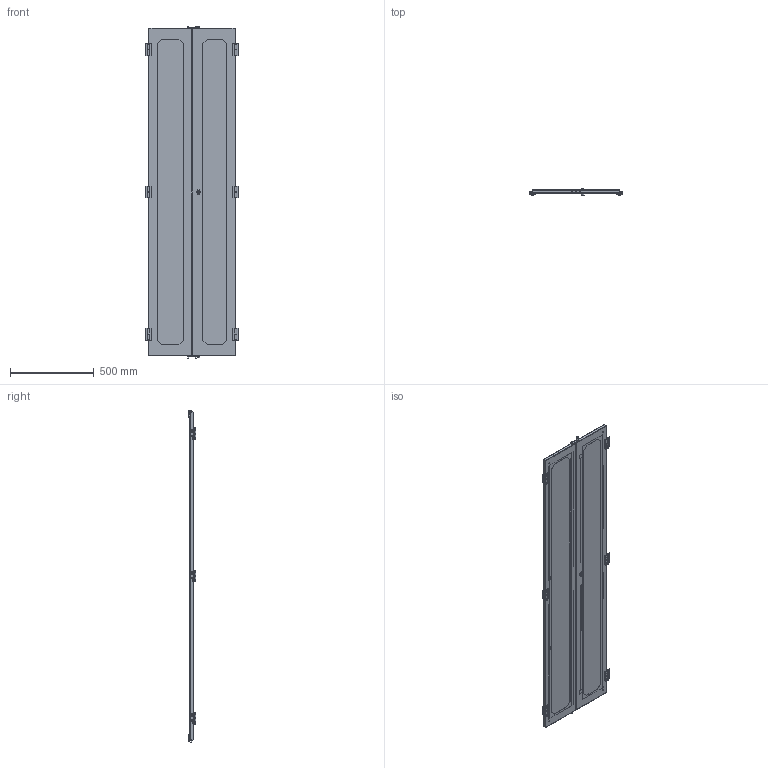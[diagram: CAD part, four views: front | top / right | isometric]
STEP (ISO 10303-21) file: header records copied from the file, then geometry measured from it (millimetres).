
FILE_DESCRIPTION(/* description */ ('Unknown'),/* implementation_level */ '2;1');
FILE_NAME(/* name */ 'C4BD2477V',/* time_stamp */ '2025-02-13T14:40:00-05:00',/* author */ ('Unknown'),/* organization */ ('Unknown'),/* preprocessor_version */ 'ST-DEVELOPER v18.104',/* originating_system */ 'Solid Edge',/* authorisation */ 'Unknown');
FILE_SCHEMA (('AUTOMOTIVE_DESIGN {1 0 10303 214 3 1 1}'));
Products named in the file (35): C4BD2477V; COM56744-3; COM57778-33; std26020; COM55940-9; GRM109956; HNG14615; HNG14615-2; HNG14615-4; HNG14615-3; HNG14615-1; HNG14616; HNG14616-1; HNG14616-5; HNG14616-2; COM56745-3; COM55857; COM57778-30; COM55940-8; COM55846-3; RVT17753; COM55856-3; WAM25493; COM55858; LOK10018-B; MLD87968; 6_32 STEEL NYLON-INSERT LOCKNUT; 6_32 x 7_16 PAN HEAD PHILLIPS MACHINE SCREW; COM57435; GSK10053-1.50; STD21899
Assembly tree (61 placements, depth 4):
  C4BD2477V
    COM56744-3
      COM57778-33  x4
      std26020  x2
      COM55940-9
      COM56744-3
    GRM109956  x2
    HNG14615  x3
      HNG14615-2
      HNG14615-4
      HNG14615-3
      HNG14615-1
    HNG14616  x3
      HNG14616-1
      HNG14616-5
        HNG14616-2
        HNG14615-3
      HNG14615-4
      HNG14615-1
    COM56745-3
      COM55857  x2
      COM57778-30  x2
      std26020  x2
      COM55940-8
      COM56745-3
      COM57778-33  x2
    COM55846-3
      RVT17753  x2
      COM55856-3  x2
      WAM25493  x2
      COM55858
    LOK10018-B
    MLD87968  x2
      6_32 STEEL NYLON-INSERT LOCKNUT
      6_32 x 7_16 PAN HEAD PHILLIPS MACHINE SCREW
      MLD87968
    COM57435  x2
      GSK10053-1.50
      STD21899
      COM57435
Bounding box: 555.87 x 45.1 x 1979.9 mm (x, y, z)
Volume: 2430213.6 mm3; surface area: 3254701.1 mm2
Topology: 79 solids, 79 shells, 5249 faces, 14783 edges, 10185 vertices
Faces by surface type: plane 3034, cylinder 1491, bspline 245, sphere 180, torus 156, cone 143
Full cylindrical faces by diameter (mm): 2.821 x2, 2.937 x6, 3.505 x8, 4.166 x4, 4.191 x4, 4.5 x4, 4.651 x2, 4.775 x6, 4.978 x4, 5.08 x2, 5.969 x4, 6 x18, 6.1 x6, 6.2 x24, 6.35 x6, 6.731 x2, 6.858 x2, 8.89 x2, 9.95 x12, 10.16 x2, 10.312 x12, 11.049 x1, 11.557 x2, 13.589 x1, 13.97 x5, 20.015 x1
Entity records: 55962 total; most frequent: CARTESIAN_POINT 15642, ORIENTED_EDGE 8466, DIRECTION 7208, EDGE_CURVE 4233, VERTEX_POINT 2998, AXIS2_PLACEMENT_3D 2624, LINE 1960, VECTOR 1960
